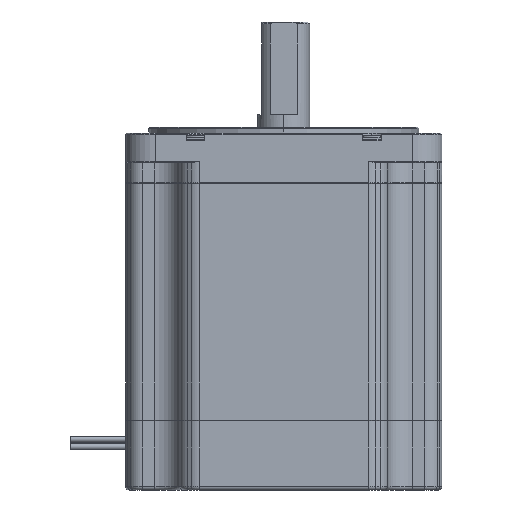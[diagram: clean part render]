
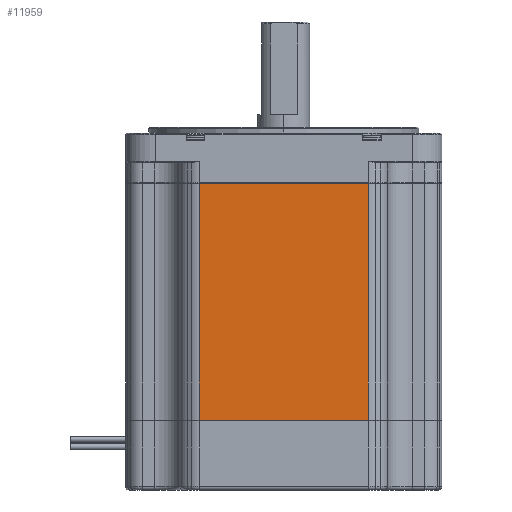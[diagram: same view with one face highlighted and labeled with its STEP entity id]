
A CAD part, left-side view. The second image highlights one B-rep face of the part: STEP entity #11959.
In plain terms, the highlighted planar face has unit normal (-1, 0, 0).
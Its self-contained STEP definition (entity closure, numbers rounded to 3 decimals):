
#243 = EDGE_CURVE ( 'NONE', #15481, #15483, #11338, .T. ) ;
#244 = EDGE_CURVE ( 'NONE', #15482, #15483, #11337, .T. ) ;
#245 = EDGE_CURVE ( 'NONE', #15482, #15480, #11336, .T. ) ;
#247 = EDGE_CURVE ( 'NONE', #15480, #15481, #11335, .T. ) ;
#1628 = FACE_OUTER_BOUND ( 'NONE', #4863, .T. ) ;
#2950 = ORIENTED_EDGE ( 'NONE', *, *, #243, .T. ) ;
#2951 = ORIENTED_EDGE ( 'NONE', *, *, #245, .T. ) ;
#2952 = ORIENTED_EDGE ( 'NONE', *, *, #247, .T. ) ;
#2953 = ORIENTED_EDGE ( 'NONE', *, *, #244, .F. ) ;
#4863 = EDGE_LOOP ( 'NONE', ( #2953, #2951, #2952, #2950 ) ) ;
#6031 = VECTOR ( 'NONE', #16236, 1000. ) ;
#6034 = VECTOR ( 'NONE', #16244, 1000. ) ;
#6036 = VECTOR ( 'NONE', #16246, 1000. ) ;
#6037 = VECTOR ( 'NONE', #16248, 1000. ) ;
#6616 = CARTESIAN_POINT ( 'NONE',  ( -42.75, -22.879, -77.55 ) ) ;
#6617 = CARTESIAN_POINT ( 'NONE',  ( -42.75, -22.879, -13.7 ) ) ;
#6618 = CARTESIAN_POINT ( 'NONE',  ( -42.75, 22.879, -77.55 ) ) ;
#6619 = CARTESIAN_POINT ( 'NONE',  ( -42.75, 22.879, -13.7 ) ) ;
#7750 = PLANE ( 'NONE',  #9107 ) ;
#7751 = CARTESIAN_POINT ( 'NONE',  ( -42.75, 22.879, -77.75 ) ) ;
#7752 = DIRECTION ( 'NONE',  ( 1., 0., 0. ) ) ;
#7753 = DIRECTION ( 'NONE',  ( 0., 0., -1. ) ) ;
#9107 = AXIS2_PLACEMENT_3D ( 'NONE', #7751, #7752, #7753 ) ;
#11335 = LINE ( 'NONE', #16238, #6031 ) ;
#11336 = LINE ( 'NONE', #16245, #6034 ) ;
#11337 = LINE ( 'NONE', #16247, #6036 ) ;
#11338 = LINE ( 'NONE', #16249, #6037 ) ;
#11959 = ADVANCED_FACE ( 'NONE', ( #1628 ), #7750, .F. ) ;
#15480 = VERTEX_POINT ( 'NONE', #6616 ) ;
#15481 = VERTEX_POINT ( 'NONE', #6617 ) ;
#15482 = VERTEX_POINT ( 'NONE', #6618 ) ;
#15483 = VERTEX_POINT ( 'NONE', #6619 ) ;
#16236 = DIRECTION ( 'NONE',  ( 0., 0., 1. ) ) ;
#16238 = CARTESIAN_POINT ( 'NONE',  ( -42.75, -22.879, -77.75 ) ) ;
#16244 = DIRECTION ( 'NONE',  ( 0., -1., 0. ) ) ;
#16245 = CARTESIAN_POINT ( 'NONE',  ( -42.75, 22.879, -77.55 ) ) ;
#16246 = DIRECTION ( 'NONE',  ( 0., 0., 1. ) ) ;
#16247 = CARTESIAN_POINT ( 'NONE',  ( -42.75, 22.879, -77.75 ) ) ;
#16248 = DIRECTION ( 'NONE',  ( 0., 1., 0. ) ) ;
#16249 = CARTESIAN_POINT ( 'NONE',  ( -42.75, 22.879, -13.7 ) ) ;
